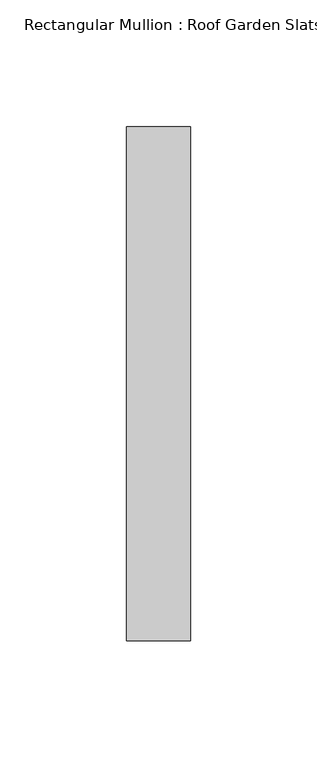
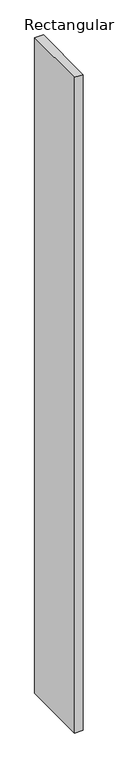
"""IFC4 building model written with IfcOpenShell, lengths in millimetres: member geometry, Rectangular Mullion : Roof Garden Slats."""

from ifc_helpers import new_model, si_unit, frame, origin, place, context, project, spatial, polyline, outline, extrude, source, transform, mapped, element, save


def rectangular_mullion_roof_garden_slats_d0234dff(model_context):
    return source(origin(), model_context, "Body", "SweptSolid", [
        extrude(outline(polyline([(0.0, 139.7), (0.0, -63.5), (-25.4, -63.5), (-25.4, 139.7), (0.0, 139.7)])), frame((0.0, 0.0, -2036.80267), z_axis=(0.0, 0.0, 1.0), x_axis=(1.0, 0.0, 0.0)), (0.0, 0.0, 1.0), 2036.80267),
    ])


if __name__ == "__main__":
    model = new_model("IFC4")
    model_context = context("Model", 3, world=origin())
    ifc_project = project(units=[si_unit("LENGTHUNIT", "METRE", prefix="MILLI")], contexts=[model_context])
    site = spatial("IfcSite", under=ifc_project)
    building = spatial("IfcBuilding", under=site)
    placement = place(None, origin())
    rectangular_mullion_roof_garden_slats_shape = rectangular_mullion_roof_garden_slats_d0234dff(model_context)
    element("IfcMember", 1, ObjectType="Rectangular Mullion : Roof Garden Slats", at=placement, inside=building, context=model_context, shape_type="MappedRepresentation", body=[
        mapped(rectangular_mullion_roof_garden_slats_shape, transform((0.0, 0.0, 0.0), x_axis=(1.0, 0.0, 0.0), y_axis=(0.0, 1.0, 0.0), z_axis=(0.0, 0.0, 1.0))),
    ])
    save(model, "model.ifc")
